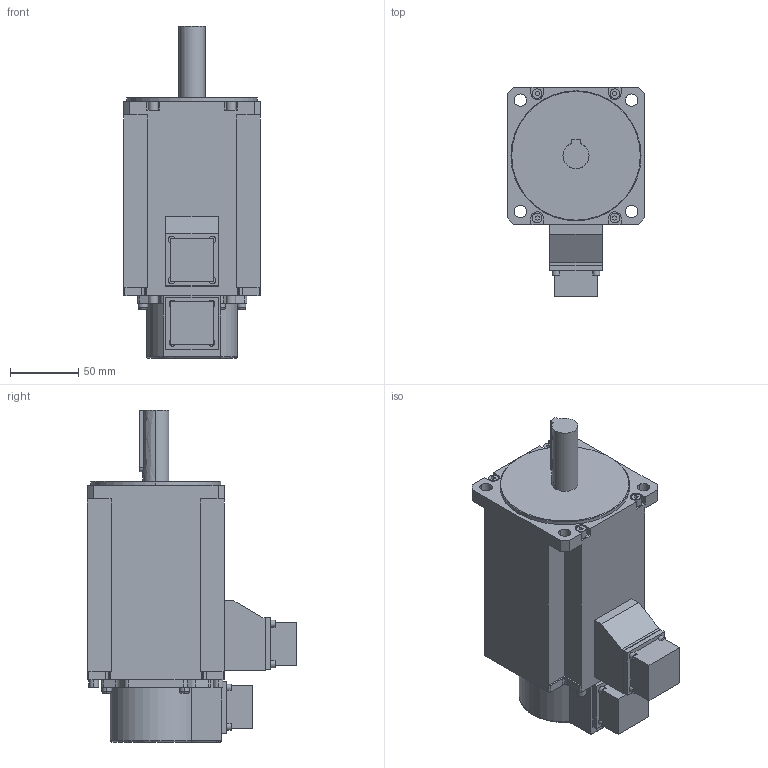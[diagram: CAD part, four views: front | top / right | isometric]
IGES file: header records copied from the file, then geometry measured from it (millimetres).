
Start section:  PTC IGES file: rsms_15ask3-070830.igs
Global section: file name: rsms_15ask3-070830.igs; native system: Pro/ENGINEER by Parametric Technology Corporation; preprocessor: 2004440; author: Administrator; organization: Unknown; date: 070830.161112; units: millimetre
Bounding box: 100 x 152.7 x 242.5 mm (x, y, z)
Volume: 1599100 mm3; surface area: 106514.5 mm2
Topology: 1 solids, 1 shells, 270 faces, 708 edges, 464 vertices
Faces by surface type: bspline 171, revolution 99
